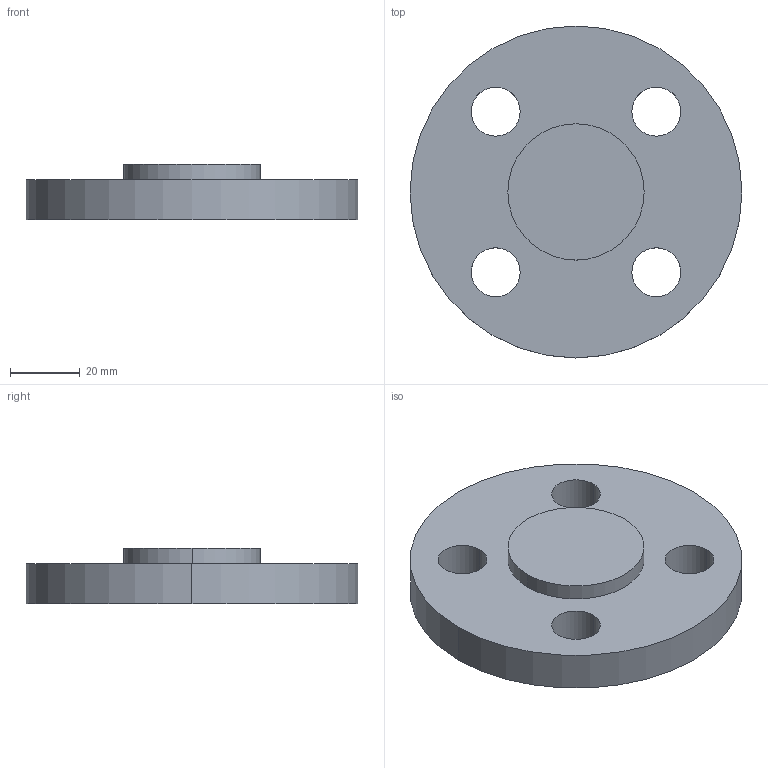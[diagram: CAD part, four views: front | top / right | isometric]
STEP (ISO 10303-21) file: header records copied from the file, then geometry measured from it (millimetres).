
FILE_DESCRIPTION (( 'STEP AP214' ), '1' );
FILE_NAME ('PN40 DN15 Type 05 - Type E Face.STEP', '2018-12-29T15:06:47', ( '' ), ( '' ), 'SwSTEP 2.0', 'SolidWorks 2019', '' );
FILE_SCHEMA (( 'AUTOMOTIVE_DESIGN' ));
Length unit declared in the file: millimetre
Products named in the file (1): PN40 DN15 Type 05 - Type E Face
Bounding box: 95 x 95 x 16 mm (x, y, z)
Volume: 79809 mm3; surface area: 18951.7 mm2
Topology: 1 solids, 1 shells, 15 faces, 36 edges, 24 vertices
Faces by surface type: cylinder 12, plane 3
Entity records: 504 total; most frequent: DIRECTION 92, CARTESIAN_POINT 76, ORIENTED_EDGE 72, AXIS2_PLACEMENT_3D 40, EDGE_CURVE 36, CIRCLE 24, VERTEX_POINT 24, EDGE_LOOP 24
